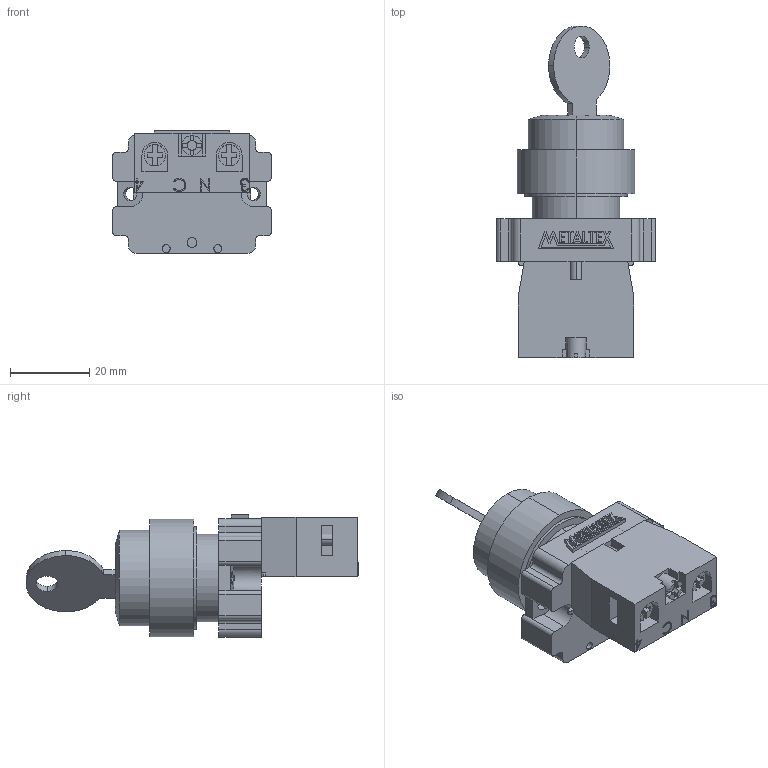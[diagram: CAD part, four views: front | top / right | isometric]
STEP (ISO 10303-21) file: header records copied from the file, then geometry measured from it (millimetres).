
FILE_DESCRIPTION (( 'STEP AP203' ), '1' );
FILE_NAME ('M20KNR2-B-1A.STEP', '2018-01-17T14:20:18', ( '' ), ( '' ), 'SwSTEP 2.0', 'SolidWorks 2012', '' );
FILE_SCHEMA (( 'CONFIG_CONTROL_DESIGN' ));
Length unit declared in the file: millimetre
Products named in the file (4): M20KNR2-B-1A; METALTEX 18,98; M20-1A; M20KNR2
Assembly tree (3 placements, depth 2):
  M20KNR2-B-1A
    M20KNR2
    M20-1A
    METALTEX 18,98
Bounding box: 40 x 83.55 x 30.9 mm (x, y, z)
Volume: 34913.6 mm3; surface area: 13269.1 mm2
Topology: 9 solids, 9 shells, 390 faces, 1017 edges, 674 vertices
Faces by surface type: plane 276, cylinder 83, bspline 23, cone 4, torus 4
Entity records: 13547 total; most frequent: CARTESIAN_POINT 3514, ORIENTED_EDGE 2034, DIRECTION 1903, EDGE_CURVE 1017, VECTOR 761, LINE 761, VERTEX_POINT 674, AXIS2_PLACEMENT_3D 571
